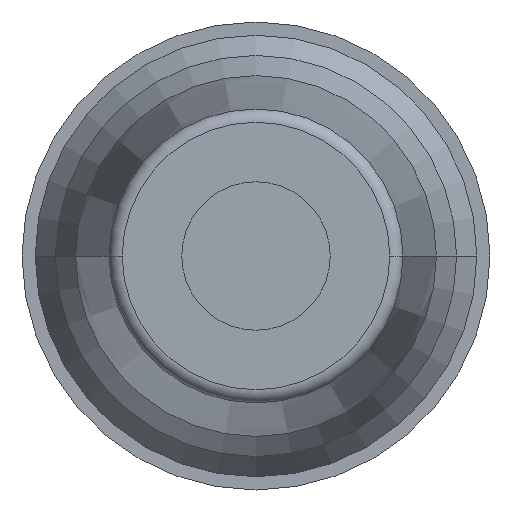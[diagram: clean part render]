
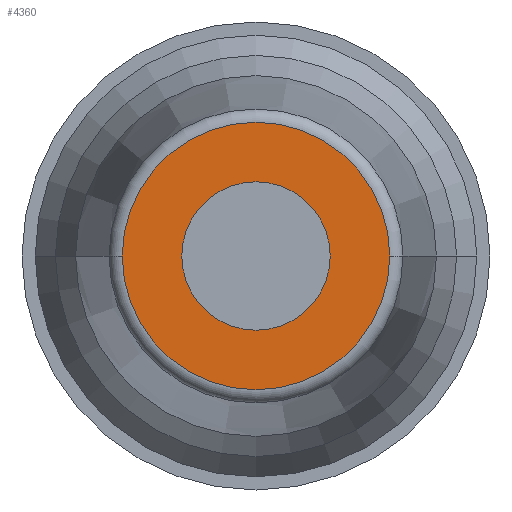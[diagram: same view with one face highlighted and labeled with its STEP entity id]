
A CAD part, front view. The second image highlights one B-rep face of the part: STEP entity #4360.
In plain terms, the highlighted planar face has unit normal (0, -1, 0).
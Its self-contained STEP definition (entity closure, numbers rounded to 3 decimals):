
#3870=CARTESIAN_POINT('',(772.169,-325.113,0.));
#3880=VERTEX_POINT('',#3870);
#3970=CARTESIAN_POINT('',(764.169,-325.113,0.));
#3980=VERTEX_POINT('',#3970);
#4010=CARTESIAN_POINT('',(768.169,-325.113,0.));
#4020=DIRECTION('',(0.,1.,0.));
#4030=DIRECTION('',(-1.,0.,0.));
#4040=AXIS2_PLACEMENT_3D('',#4010,#4020,#4030);
#4050=CIRCLE('',#4040,4.);
#4060=EDGE_CURVE('',#3880,#3980,#4050,.T.);
#4110=CARTESIAN_POINT('',(765.059,-325.113,0.));
#4120=DIRECTION('',(-0.,-1.,-0.));
#4130=DIRECTION('',(-1.,0.,0.));
#4140=AXIS2_PLACEMENT_3D('',#4110,#4120,#4130);
#4150=PLANE('',#4140);
#4160=CARTESIAN_POINT('',(768.169,-325.113,0.));
#4170=DIRECTION('',(0.,1.,0.));
#4180=DIRECTION('',(-1.,0.,0.));
#4190=AXIS2_PLACEMENT_3D('',#4160,#4170,#4180);
#4200=CIRCLE('',#4190,2.22);
#4210=CARTESIAN_POINT('',(765.95,-325.113,0.));
#4220=VERTEX_POINT('',#4210);
#4230=CARTESIAN_POINT('',(770.389,-325.113,
0.));
#4240=VERTEX_POINT('',#4230);
#4250=EDGE_CURVE('',#4220,#4240,#4200,.T.);
#4260=ORIENTED_EDGE('',*,*,#4250,.T.);
#4270=EDGE_CURVE('',#4240,#4220,#4200,.T.);
#4280=ORIENTED_EDGE('',*,*,#4270,.T.);
#4290=EDGE_LOOP('',(#4280,#4260));
#4300=FACE_BOUND('',#4290,.T.);
#4310=EDGE_CURVE('',#3980,#3880,#4050,.T.);
#4320=ORIENTED_EDGE('',*,*,#4310,.F.);
#4330=ORIENTED_EDGE('',*,*,#4060,.F.);
#4340=EDGE_LOOP('',(#4330,#4320));
#4350=FACE_OUTER_BOUND('',#4340,.T.);
#4360=ADVANCED_FACE('',(#4300,#4350),#4150,.T.);
